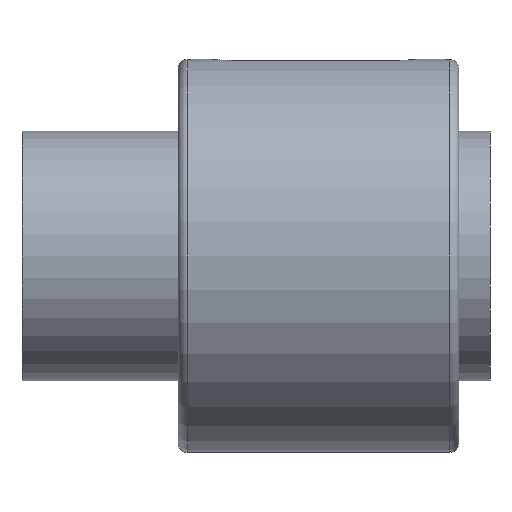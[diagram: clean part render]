
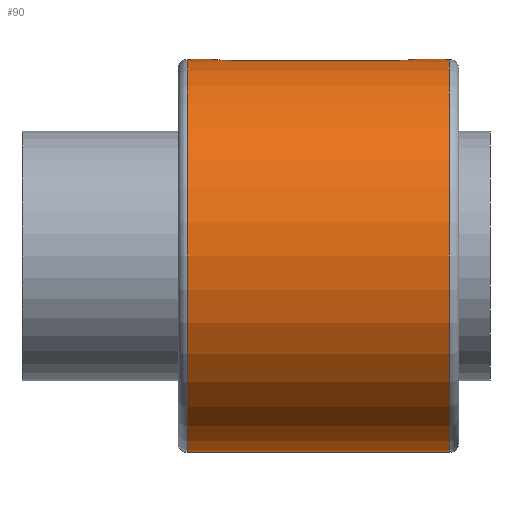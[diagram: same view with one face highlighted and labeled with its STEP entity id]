
A CAD part, left-side view. The second image highlights one B-rep face of the part: STEP entity #90.
In plain terms, the highlighted cylindrical face has radius 31.5 mm (diameter 63 mm), a full revolution.
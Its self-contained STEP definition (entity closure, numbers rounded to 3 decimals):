
#29=LINE('',#495,#37);
#30=LINE('',#529,#38);
#37=VECTOR('',#379,1.);
#38=VECTOR('',#380,1.);
#45=B_SPLINE_CURVE_WITH_KNOTS('',3,(#462,#463,#464,#465,#466,#467,#468,#469,
#470,#471,#472,#473,#474,#475,#476,#477,#478,#479,#480,#481,#482,#483,#484,
#485,#486,#487,#488,#489,#490,#491,#492),.UNSPECIFIED.,.F.,.F.,(4,3,3,3,
3,3,3,3,3,3,4),(0.,0.107,0.214,0.322,
0.429,0.536,0.643,0.75,0.858,
0.965,1.),.UNSPECIFIED.);
#46=B_SPLINE_CURVE_WITH_KNOTS('',3,(#497,#498,#499,#500,#501,#502,#503,#504,
#505,#506,#507,#508,#509,#510,#511,#512,#513,#514,#515,#516,#517,#518,#519,
#520,#521,#522,#523,#524,#525,#526,#527),.UNSPECIFIED.,.F.,.F.,(4,3,3,3,
3,3,3,3,3,3,4),(0.,0.107,0.214,0.322,
0.429,0.536,0.643,0.75,0.858,
0.965,1.),.UNSPECIFIED.);
#90=ADVANCED_FACE('',(#121,#122,#123),#108,.T.);
#108=CYLINDRICAL_SURFACE('',#325,31.5);
#121=FACE_BOUND('',#154,.T.);
#122=FACE_BOUND('',#155,.T.);
#123=FACE_BOUND('',#156,.T.);
#154=EDGE_LOOP('',(#192,#193,#194,#195));
#155=EDGE_LOOP('',(#196));
#156=EDGE_LOOP('',(#197));
#192=ORIENTED_EDGE('',*,*,#270,.F.);
#193=ORIENTED_EDGE('',*,*,#271,.F.);
#194=ORIENTED_EDGE('',*,*,#272,.F.);
#195=ORIENTED_EDGE('',*,*,#273,.F.);
#196=ORIENTED_EDGE('',*,*,#274,.T.);
#197=ORIENTED_EDGE('',*,*,#275,.T.);
#246=VERTEX_POINT('',#493);
#247=VERTEX_POINT('',#494);
#248=VERTEX_POINT('',#496);
#249=VERTEX_POINT('',#528);
#250=VERTEX_POINT('',#531);
#251=VERTEX_POINT('',#533);
#270=EDGE_CURVE('',#246,#247,#45,.T.);
#271=EDGE_CURVE('',#248,#246,#29,.T.);
#272=EDGE_CURVE('',#249,#248,#46,.T.);
#273=EDGE_CURVE('',#247,#249,#30,.T.);
#274=EDGE_CURVE('',#250,#250,#298,.T.);
#275=EDGE_CURVE('',#251,#251,#299,.T.);
#298=CIRCLE('',#323,31.5);
#299=CIRCLE('',#324,31.5);
#323=AXIS2_PLACEMENT_3D('',#530,#381,#382);
#324=AXIS2_PLACEMENT_3D('',#532,#383,#384);
#325=AXIS2_PLACEMENT_3D('',#534,#385,#386);
#379=DIRECTION('',(0.,1.,0.));
#380=DIRECTION('',(0.,-1.,0.));
#381=DIRECTION('',(0.,1.,0.));
#382=DIRECTION('',(0.,0.,1.));
#383=DIRECTION('',(0.,-1.,0.));
#384=DIRECTION('',(0.,0.,1.));
#385=DIRECTION('',(0.,1.,0.));
#386=DIRECTION('',(0.,0.,1.));
#462=CARTESIAN_POINT('',(3.,36.5,31.357));
#463=CARTESIAN_POINT('',(3.,36.835,31.357));
#464=CARTESIAN_POINT('',(2.942,37.174,31.362));
#465=CARTESIAN_POINT('',(2.832,37.49,31.372));
#466=CARTESIAN_POINT('',(2.721,37.806,31.382));
#467=CARTESIAN_POINT('',(2.555,38.108,31.397));
#468=CARTESIAN_POINT('',(2.346,38.369,31.412));
#469=CARTESIAN_POINT('',(2.137,38.632,31.428));
#470=CARTESIAN_POINT('',(1.88,38.862,31.445));
#471=CARTESIAN_POINT('',(1.596,39.04,31.46));
#472=CARTESIAN_POINT('',(1.312,39.219,31.474));
#473=CARTESIAN_POINT('',(0.992,39.351,31.486));
#474=CARTESIAN_POINT('',(0.664,39.426,31.493));
#475=CARTESIAN_POINT('',(0.337,39.5,31.5));
#476=CARTESIAN_POINT('',(-0.008,39.519,31.502));
#477=CARTESIAN_POINT('',(-0.341,39.481,31.498));
#478=CARTESIAN_POINT('',(-0.673,39.443,31.495));
#479=CARTESIAN_POINT('',(-1.003,39.347,31.485));
#480=CARTESIAN_POINT('',(-1.304,39.202,31.473));
#481=CARTESIAN_POINT('',(-1.605,39.056,31.461));
#482=CARTESIAN_POINT('',(-1.886,38.857,31.444));
#483=CARTESIAN_POINT('',(-2.122,38.62,31.428));
#484=CARTESIAN_POINT('',(-2.36,38.383,31.412));
#485=CARTESIAN_POINT('',(-2.559,38.101,31.396));
#486=CARTESIAN_POINT('',(-2.705,37.798,31.384));
#487=CARTESIAN_POINT('',(-2.85,37.495,31.371));
#488=CARTESIAN_POINT('',(-2.945,37.163,31.362));
#489=CARTESIAN_POINT('',(-2.982,36.828,31.359));
#490=CARTESIAN_POINT('',(-2.994,36.719,31.357));
#491=CARTESIAN_POINT('',(-3.,36.61,31.357));
#492=CARTESIAN_POINT('',(-3.,36.5,31.357));
#493=CARTESIAN_POINT('',(3.,36.5,31.357));
#494=CARTESIAN_POINT('',(-3.,36.5,31.357));
#495=CARTESIAN_POINT('',(3.,0.,31.357));
#496=CARTESIAN_POINT('',(3.,10.,31.357));
#497=CARTESIAN_POINT('',(-3.,10.,31.357));
#498=CARTESIAN_POINT('',(-3.,9.665,31.357));
#499=CARTESIAN_POINT('',(-2.942,9.326,31.362));
#500=CARTESIAN_POINT('',(-2.832,9.01,31.372));
#501=CARTESIAN_POINT('',(-2.721,8.694,31.382));
#502=CARTESIAN_POINT('',(-2.555,8.392,31.397));
#503=CARTESIAN_POINT('',(-2.346,8.131,31.412));
#504=CARTESIAN_POINT('',(-2.137,7.868,31.428));
#505=CARTESIAN_POINT('',(-1.88,7.638,31.445));
#506=CARTESIAN_POINT('',(-1.596,7.46,31.46));
#507=CARTESIAN_POINT('',(-1.312,7.281,31.474));
#508=CARTESIAN_POINT('',(-0.992,7.149,31.486));
#509=CARTESIAN_POINT('',(-0.664,7.074,31.493));
#510=CARTESIAN_POINT('',(-0.337,7.,31.5));
#511=CARTESIAN_POINT('',(0.008,6.981,31.502));
#512=CARTESIAN_POINT('',(0.341,7.019,31.498));
#513=CARTESIAN_POINT('',(0.673,7.057,31.495));
#514=CARTESIAN_POINT('',(1.003,7.153,31.485));
#515=CARTESIAN_POINT('',(1.304,7.298,31.473));
#516=CARTESIAN_POINT('',(1.605,7.444,31.461));
#517=CARTESIAN_POINT('',(1.886,7.643,31.444));
#518=CARTESIAN_POINT('',(2.122,7.88,31.428));
#519=CARTESIAN_POINT('',(2.36,8.117,31.412));
#520=CARTESIAN_POINT('',(2.559,8.399,31.396));
#521=CARTESIAN_POINT('',(2.705,8.702,31.384));
#522=CARTESIAN_POINT('',(2.85,9.005,31.371));
#523=CARTESIAN_POINT('',(2.945,9.337,31.362));
#524=CARTESIAN_POINT('',(2.982,9.672,31.359));
#525=CARTESIAN_POINT('',(2.994,9.781,31.357));
#526=CARTESIAN_POINT('',(3.,9.89,31.357));
#527=CARTESIAN_POINT('',(3.,10.,31.357));
#528=CARTESIAN_POINT('',(-3.,10.,31.357));
#529=CARTESIAN_POINT('',(-3.,0.,31.357));
#530=CARTESIAN_POINT('',(0.,1.5,0.));
#531=CARTESIAN_POINT('',(0.,1.5,31.5));
#532=CARTESIAN_POINT('',(0.,43.5,0.));
#533=CARTESIAN_POINT('',(0.,43.5,31.5));
#534=CARTESIAN_POINT('',(0.,0.,0.));
